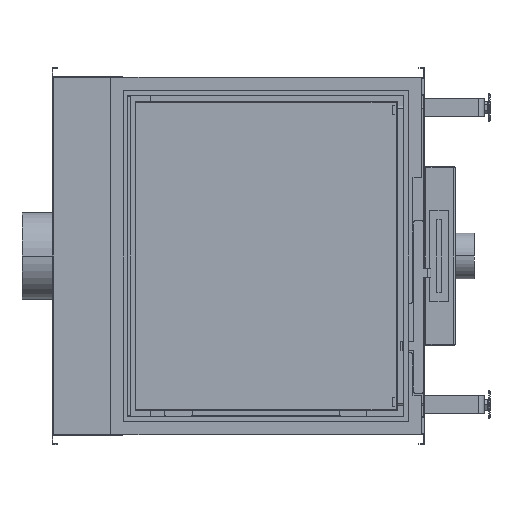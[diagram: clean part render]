
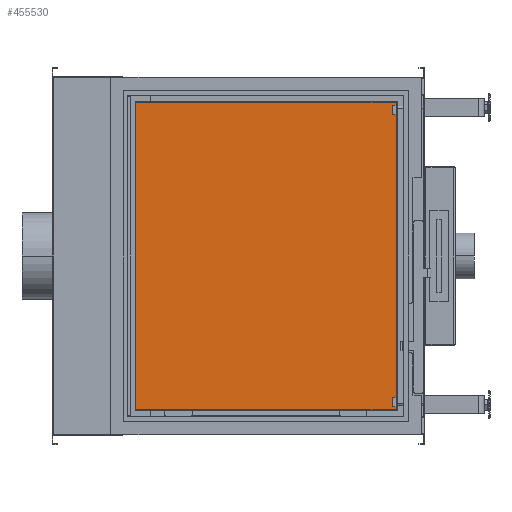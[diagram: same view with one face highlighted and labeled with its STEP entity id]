
A CAD part, left-side view. The second image highlights one B-rep face of the part: STEP entity #455530.
In plain terms, the highlighted planar face has unit normal (-1, 0, 0) as drawn and (1, 0, 0) by its records, which use the part's own axes.
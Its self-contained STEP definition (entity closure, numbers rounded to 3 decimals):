
#453450=CARTESIAN_POINT('',(-14.636,10.,
782.554));
#453460=VERTEX_POINT('',#453450);
#453580=CARTESIAN_POINT('',(-14.636,10.,
111.554));
#453590=VERTEX_POINT('',#453580);
#453620=CARTESIAN_POINT('',(-14.636,10.,
547.054));
#453630=DIRECTION('',(0.,0.,1.));
#453640=VECTOR('',#453630,1.);
#453650=LINE('',#453620,#453640);
#453660=EDGE_CURVE('',#453590,#453460,#453650,.T.);
#453820=CARTESIAN_POINT('',(-14.636,-558.,
111.554));
#453830=VERTEX_POINT('',#453820);
#453860=CARTESIAN_POINT('',(-14.636,33.5,
111.554));
#453870=DIRECTION('',(-0.,1.,0.));
#453880=VECTOR('',#453870,1.);
#453890=LINE('',#453860,#453880);
#453900=EDGE_CURVE('',#453830,#453590,#453890,.T.);
#454260=CARTESIAN_POINT('',(-14.636,-558.,
782.554));
#454270=VERTEX_POINT('',#454260);
#454300=CARTESIAN_POINT('',(-14.636,-558.,
347.054));
#454310=DIRECTION('',(0.,0.,-1.));
#454320=VECTOR('',#454310,1.);
#454330=LINE('',#454300,#454320);
#454340=EDGE_CURVE('',#454270,#453830,#454330,.T.);
#455370=CARTESIAN_POINT('',(-14.636,-349.,
547.054));
#455380=DIRECTION('',(1.,0.,0.));
#455390=DIRECTION('',(0.,0.,-1.));
#455400=AXIS2_PLACEMENT_3D('',#455370,#455380,#455390);
#455410=PLANE('',#455400);
#455420=ORIENTED_EDGE('',*,*,#453660,.T.);
#455430=ORIENTED_EDGE('',*,*,#453900,.T.);
#455440=ORIENTED_EDGE('',*,*,#454340,.T.);
#455450=CARTESIAN_POINT('',(-14.636,-117.,
782.554));
#455460=DIRECTION('',(-0.,1.,0.));
#455470=VECTOR('',#455460,1.);
#455480=LINE('',#455450,#455470);
#455490=EDGE_CURVE('',#454270,#453460,#455480,.T.);
#455500=ORIENTED_EDGE('',*,*,#455490,.F.);
#455510=EDGE_LOOP('',(#455500,#455440,#455430,#455420));
#455520=FACE_OUTER_BOUND('',#455510,.T.);
#455530=ADVANCED_FACE('',(#455520),#455410,.T.);
